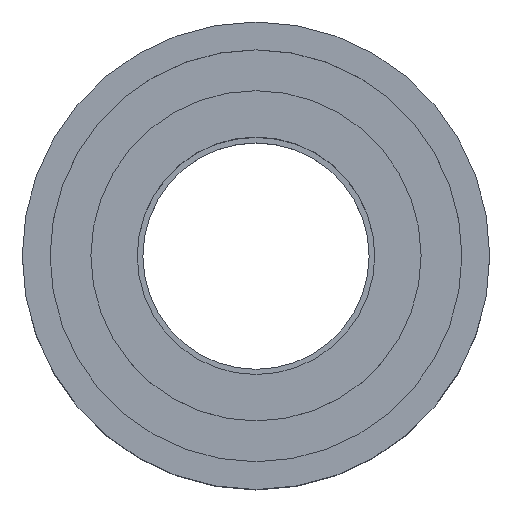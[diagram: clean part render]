
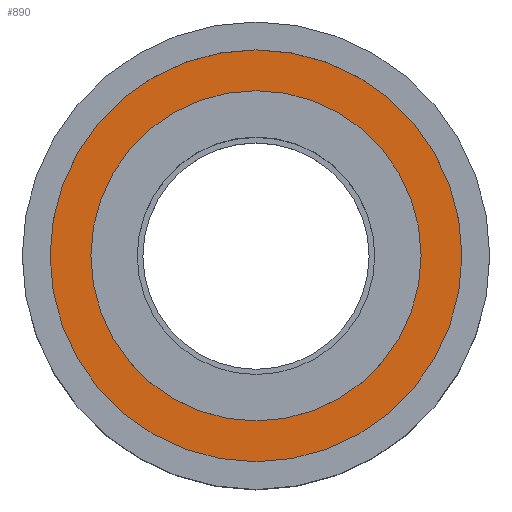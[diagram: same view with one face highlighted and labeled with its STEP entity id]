
A CAD part, top view. The second image highlights one B-rep face of the part: STEP entity #890.
In plain terms, the highlighted planar face has unit normal (0, 0, 1).
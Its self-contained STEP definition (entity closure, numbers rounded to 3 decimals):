
#753=AXIS2_PLACEMENT_3D('Circle Axis2P3D',#751,#752,$) ;
#772=AXIS2_PLACEMENT_3D('Circle Axis2P3D',#770,#771,$) ;
#866=AXIS2_PLACEMENT_3D('Plane Axis2P3D',#863,#864,#865) ;
#870=AXIS2_PLACEMENT_3D('Circle Axis2P3D',#868,#869,$) ;
#879=AXIS2_PLACEMENT_3D('Circle Axis2P3D',#877,#878,$) ;
#748=CARTESIAN_POINT('Vertex',(4.45,0.,2.6)) ;
#751=CARTESIAN_POINT('Axis2P3D Location',(0.,0.,2.6)) ;
#755=CARTESIAN_POINT('Vertex',(-4.45,0.,2.6)) ;
#770=CARTESIAN_POINT('Axis2P3D Location',(0.,0.,2.6)) ;
#863=CARTESIAN_POINT('Axis2P3D Location',(0.,0.,2.6)) ;
#868=CARTESIAN_POINT('Axis2P3D Location',(0.,0.,2.6)) ;
#872=CARTESIAN_POINT('Vertex',(5.55,0.,2.6)) ;
#874=CARTESIAN_POINT('Vertex',(-5.55,0.,2.6)) ;
#877=CARTESIAN_POINT('Axis2P3D Location',(0.,0.,2.6)) ;
#752=DIRECTION('Axis2P3D Direction',(0.,0.,1.)) ;
#771=DIRECTION('Axis2P3D Direction',(0.,0.,1.)) ;
#864=DIRECTION('Axis2P3D Direction',(0.,0.,1.)) ;
#865=DIRECTION('Axis2P3D XDirection',(1.,0.,0.)) ;
#869=DIRECTION('Axis2P3D Direction',(0.,0.,1.)) ;
#878=DIRECTION('Axis2P3D Direction',(0.,0.,1.)) ;
#883=ORIENTED_EDGE('',*,*,#876,.T.) ;
#884=ORIENTED_EDGE('',*,*,#881,.T.) ;
#887=ORIENTED_EDGE('',*,*,#774,.F.) ;
#888=ORIENTED_EDGE('',*,*,#757,.F.) ;
#889=FACE_BOUND('',#886,.T.) ;
#890=ADVANCED_FACE('\X2\96F64EF651E04F554F53\X0\',(#885,#889),#867,.T.) ;
#754=CIRCLE('generated circle',#753,4.45) ;
#773=CIRCLE('generated circle',#772,4.45) ;
#871=CIRCLE('generated circle',#870,5.55) ;
#880=CIRCLE('generated circle',#879,5.55) ;
#757=EDGE_CURVE('',#749,#756,#754,.T.) ;
#774=EDGE_CURVE('',#756,#749,#773,.T.) ;
#876=EDGE_CURVE('',#873,#875,#871,.T.) ;
#881=EDGE_CURVE('',#875,#873,#880,.T.) ;
#882=EDGE_LOOP('',(#883,#884)) ;
#886=EDGE_LOOP('',(#887,#888)) ;
#885=FACE_OUTER_BOUND('',#882,.T.) ;
#867=PLANE('',#866) ;
#749=VERTEX_POINT('',#748) ;
#756=VERTEX_POINT('',#755) ;
#873=VERTEX_POINT('',#872) ;
#875=VERTEX_POINT('',#874) ;
